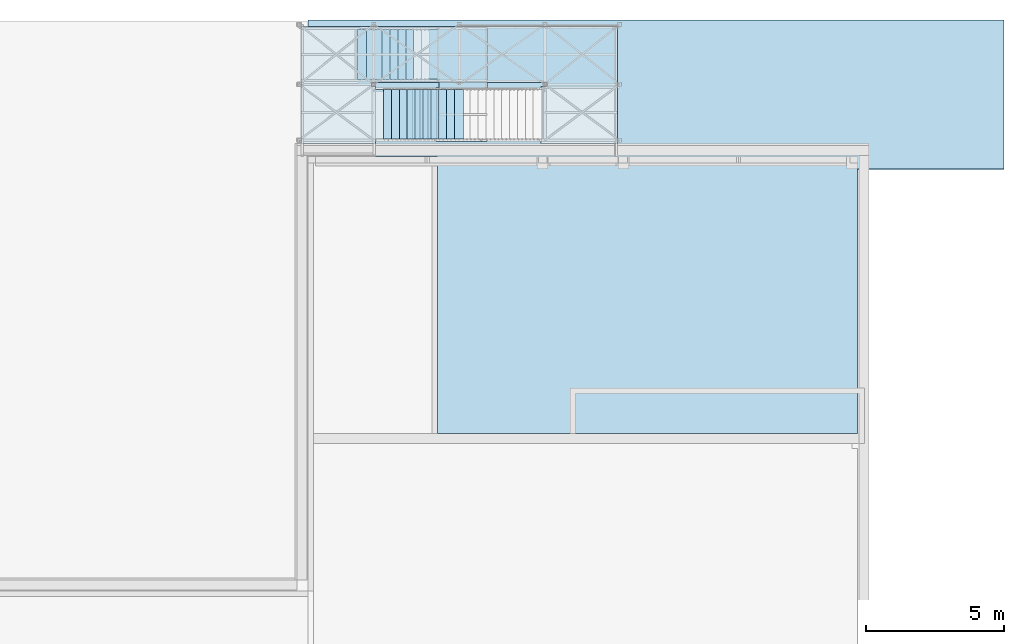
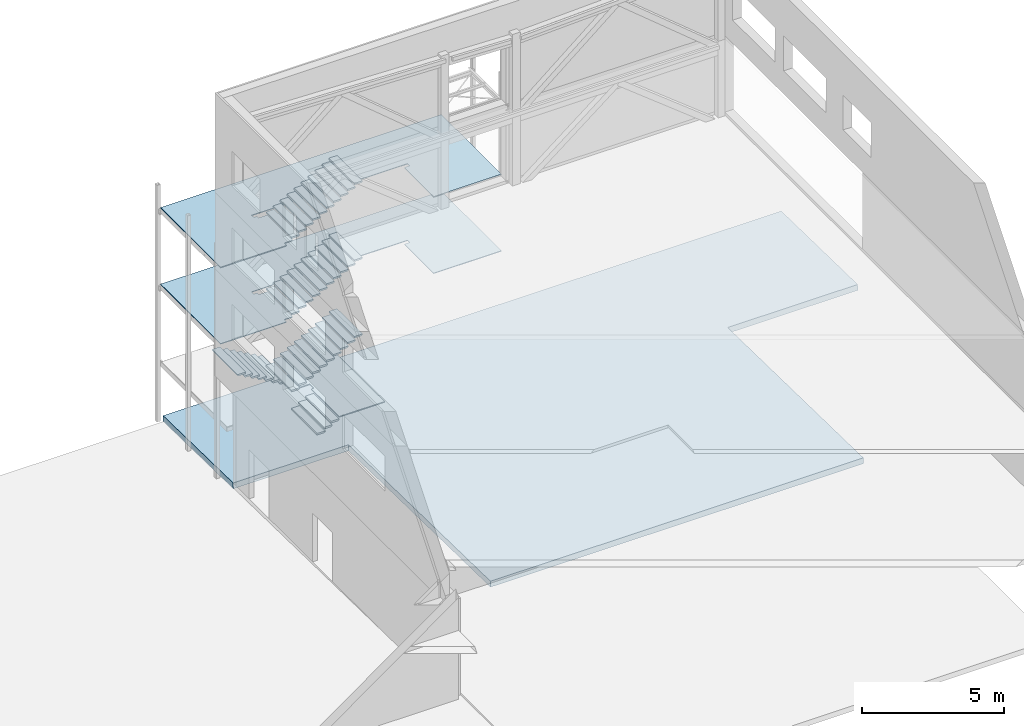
# One storey, part 60 of 78: 43 plates, 1 slab, 44 elements without a shape of their own.
"""IFC2X3 building model written with IfcOpenShell, lengths in millimetres."""

from ifc_helpers import new_model, si_unit, frame, origin_with_axes, place, context, subcontext, project, spatial, polyline, outline, extrude, material, type_object, element, aggregate, save


model = new_model("IFC2X3")

# Units and contexts
model_context = context("Model", 3, precision=1e-05, world=origin_with_axes())
body_context = subcontext(model_context, "Body", "Model", "MODEL_VIEW")
ifc_project = project(units=[si_unit("LENGTHUNIT", "METRE", prefix="MILLI"), si_unit("AREAUNIT", "SQUARE_METRE"), si_unit("VOLUMEUNIT", "CUBIC_METRE"), si_unit("MASSUNIT", "GRAM", prefix="KILO"), si_unit("TIMEUNIT", "SECOND"), si_unit("PLANEANGLEUNIT", "RADIAN"), si_unit("SOLIDANGLEUNIT", "STERADIAN"), si_unit("THERMODYNAMICTEMPERATUREUNIT", "DEGREE_CELSIUS"), si_unit("LUMINOUSINTENSITYUNIT", "LUMEN")], contexts=[model_context])

# Site, building, storey
site_placement = place(None, origin_with_axes())
site = spatial("IfcSite", under=ifc_project, at=site_placement, Name="Site", CompositionType="ELEMENT")
building_placement = place(site_placement, origin_with_axes())
building = spatial("IfcBuilding", under=site, at=building_placement, Name="Undefined", CompositionType="ELEMENT")
storey_placement = place(building_placement, origin_with_axes())
storey = spatial("IfcBuildingStorey", under=building, at=storey_placement, Name="Undefined", CompositionType="ELEMENT", Elevation=0.0)

# Assembly, plate
assembly_1_placement = place(storey_placement, origin_with_axes())
assembly_1 = element("IfcElementAssembly", 1, at=assembly_1_placement, inside=storey, Name="MARCHE", AssemblyPlace="NOTDEFINED", PredefinedType="RIGID_FRAME")
ifc_material_1 = material(Name="STEEL/S235JR")
plate_type_1 = type_object("IfcPlateType", Name="PL1800*70", PredefinedType="NOTDEFINED")
plate_1_placement = place(assembly_1_placement, frame((-2401.42999989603, 29662.9999999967, 148345.540000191), z_axis=(0.0, -1.0, 0.0), x_axis=(-1.0, 0.0, 0.0)))
plate_1 = element("IfcPlate", 2, at=plate_1_placement, type_object=plate_type_1, material=ifc_material_1, Name="MARCHE", ObjectType="PL1800*70", context=body_context, shape_type="SweptSolid", body=[
    extrude(outline(polyline([(0.0, 0.0), (330.0, 0.0), (330.0, 70.0), (40.0, 70.0), (0.0, 40.0), (0.0, 0.0)])), frame((0.0, 0.0, -900.0), z_axis=(0.0, 0.0, 1.0), x_axis=(1.0, 0.0, 0.0)), (0.0, 0.0, 1.0), 1800.0),
])
aggregate(assembly_1, [plate_1])

assembly_2_placement = place(storey_placement, origin_with_axes())
assembly_2 = element("IfcElementAssembly", 3, at=assembly_2_placement, inside=storey, Name="MARCHE", AssemblyPlace="NOTDEFINED", PredefinedType="RIGID_FRAME")
plate_2_placement = place(assembly_2_placement, frame((-5291.43000014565, 31833.0000000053, 149940.540000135), z_axis=(0.0, 1.0, 0.0), x_axis=(1.0, 0.0, 0.0)))
plate_2 = element("IfcPlate", 4, at=plate_2_placement, type_object=plate_type_1, material=ifc_material_1, Name="MARCHE", ObjectType="PL1800*70", context=body_context, shape_type="SweptSolid", body=[
    extrude(outline(polyline([(0.0, 0.0), (330.0, 0.0), (330.0, 70.0), (40.0, 70.0), (0.0, 40.0), (0.0, 0.0)])), frame((0.0, 0.0, -900.0), z_axis=(0.0, 0.0, 1.0), x_axis=(1.0, 0.0, 0.0)), (0.0, 0.0, 1.0), 1800.0),
])
aggregate(assembly_2, [plate_2])

assembly_3_placement = place(storey_placement, origin_with_axes())
assembly_3 = element("IfcElementAssembly", 5, at=assembly_3_placement, inside=storey, Name="MARCHE", AssemblyPlace="NOTDEFINED", PredefinedType="RIGID_FRAME")
plate_3_placement = place(assembly_3_placement, frame((-2686.42999990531, 29662.9999999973, 148186.040000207), z_axis=(0.0, -1.0, 0.0), x_axis=(-1.0, 0.0, 0.0)))
plate_3 = element("IfcPlate", 6, at=plate_3_placement, type_object=plate_type_1, material=ifc_material_1, Name="MARCHE", ObjectType="PL1800*70", context=body_context, shape_type="SweptSolid", body=[
    extrude(outline(polyline([(0.0, 0.0), (330.0, 0.0), (330.0, 70.0), (40.0, 70.0), (0.0, 40.0), (0.0, 0.0)])), frame((0.0, 0.0, -900.0), z_axis=(0.0, 0.0, 1.0), x_axis=(1.0, 0.0, 0.0)), (0.0, 0.0, 1.0), 1800.0),
])
aggregate(assembly_3, [plate_3])

assembly_4_placement = place(storey_placement, origin_with_axes())
assembly_4 = element("IfcElementAssembly", 7, at=assembly_4_placement, inside=storey, Name="MARCHE", AssemblyPlace="NOTDEFINED", PredefinedType="RIGID_FRAME")
plate_4_placement = place(assembly_4_placement, frame((-5006.43000013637, 31833.0000000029, 149781.040000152), z_axis=(0.0, 1.0, 0.0), x_axis=(1.0, 0.0, 0.0)))
plate_4 = element("IfcPlate", 8, at=plate_4_placement, type_object=plate_type_1, material=ifc_material_1, Name="MARCHE", ObjectType="PL1800*70", context=body_context, shape_type="SweptSolid", body=[
    extrude(outline(polyline([(0.0, 0.0), (330.0, 0.0), (330.0, 70.0), (40.0, 70.0), (0.0, 40.0), (0.0, 0.0)])), frame((0.0, 0.0, -900.0), z_axis=(0.0, 0.0, 1.0), x_axis=(1.0, 0.0, 0.0)), (0.0, 0.0, 1.0), 1800.0),
])
aggregate(assembly_4, [plate_4])

assembly_5_placement = place(storey_placement, origin_with_axes())
assembly_5 = element("IfcElementAssembly", 9, at=assembly_5_placement, inside=storey, Name="MARCHE", AssemblyPlace="NOTDEFINED", PredefinedType="RIGID_FRAME")
plate_5_placement = place(assembly_5_placement, frame((-2971.4299999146, 29662.9999999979, 148026.540000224), z_axis=(0.0, -1.0, 0.0), x_axis=(-1.0, 0.0, 0.0)))
plate_5 = element("IfcPlate", 10, at=plate_5_placement, type_object=plate_type_1, material=ifc_material_1, Name="MARCHE", ObjectType="PL1800*70", context=body_context, shape_type="SweptSolid", body=[
    extrude(outline(polyline([(0.0, 0.0), (330.0, 0.0), (330.0, 70.0), (40.0, 70.0), (0.0, 40.0), (0.0, 0.0)])), frame((0.0, 0.0, -900.0), z_axis=(0.0, 0.0, 1.0), x_axis=(1.0, 0.0, 0.0)), (0.0, 0.0, 1.0), 1800.0),
])
aggregate(assembly_5, [plate_5])

assembly_6_placement = place(storey_placement, origin_with_axes())
assembly_6 = element("IfcElementAssembly", 11, at=assembly_6_placement, inside=storey, Name="MARCHE", AssemblyPlace="NOTDEFINED", PredefinedType="RIGID_FRAME")
plate_6_placement = place(assembly_6_placement, frame((-1446.42999994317, 29663.0000000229, 151667.539999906), z_axis=(0.0, -1.0, 0.0), x_axis=(-1.0, 0.0, 0.0)))
plate_6 = element("IfcPlate", 12, at=plate_6_placement, type_object=plate_type_1, material=ifc_material_1, Name="MARCHE", ObjectType="PL1800*70", context=body_context, shape_type="SweptSolid", body=[
    extrude(outline(polyline([(0.0, 0.0), (330.0, 0.0), (330.0, 70.0), (40.0, 70.0), (0.0, 40.0), (0.0, 0.0)])), frame((0.0, 0.0, -900.0), z_axis=(0.0, 0.0, 1.0), x_axis=(1.0, 0.0, 0.0)), (0.0, 0.0, 1.0), 1800.0),
])
aggregate(assembly_6, [plate_6])

assembly_7_placement = place(storey_placement, origin_with_axes())
assembly_7 = element("IfcElementAssembly", 13, at=assembly_7_placement, inside=storey, Name="MARCHE", AssemblyPlace="NOTDEFINED", PredefinedType="RIGID_FRAME")
plate_7_placement = place(assembly_7_placement, frame((-1731.42999994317, 29663.0000000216, 151510.039999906), z_axis=(0.0, -1.0, 0.0), x_axis=(-1.0, 0.0, 0.0)))
plate_7 = element("IfcPlate", 14, at=plate_7_placement, type_object=plate_type_1, material=ifc_material_1, Name="MARCHE", ObjectType="PL1800*70", context=body_context, shape_type="SweptSolid", body=[
    extrude(outline(polyline([(0.0, 0.0), (330.0, 0.0), (330.0, 70.0), (40.0, 70.0), (0.0, 40.0), (0.0, 0.0)])), frame((0.0, 0.0, -900.0), z_axis=(0.0, 0.0, 1.0), x_axis=(1.0, 0.0, 0.0)), (0.0, 0.0, 1.0), 1800.0),
])
aggregate(assembly_7, [plate_7])

assembly_8_placement = place(storey_placement, origin_with_axes())
assembly_8 = element("IfcElementAssembly", 15, at=assembly_8_placement, inside=storey, Name="MARCHE", AssemblyPlace="NOTDEFINED", PredefinedType="RIGID_FRAME")
plate_8_placement = place(assembly_8_placement, frame((-2016.42999994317, 29663.0000000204, 151352.539999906), z_axis=(0.0, -1.0, 0.0), x_axis=(-1.0, 0.0, 0.0)))
plate_8 = element("IfcPlate", 16, at=plate_8_placement, type_object=plate_type_1, material=ifc_material_1, Name="MARCHE", ObjectType="PL1800*70", context=body_context, shape_type="SweptSolid", body=[
    extrude(outline(polyline([(0.0, 0.0), (330.0, 0.0), (330.0, 70.0), (40.0, 70.0), (0.0, 40.0), (0.0, 0.0)])), frame((0.0, 0.0, -900.0), z_axis=(0.0, 0.0, 1.0), x_axis=(1.0, 0.0, 0.0)), (0.0, 0.0, 1.0), 1800.0),
])
aggregate(assembly_8, [plate_8])

assembly_9_placement = place(storey_placement, origin_with_axes())
assembly_9 = element("IfcElementAssembly", 17, at=assembly_9_placement, inside=storey, Name="MARCHE", AssemblyPlace="NOTDEFINED", PredefinedType="RIGID_FRAME")
plate_9_placement = place(assembly_9_placement, frame((-2301.42999994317, 29663.0000000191, 151195.039999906), z_axis=(0.0, -1.0, 0.0), x_axis=(-1.0, 0.0, 0.0)))
plate_9 = element("IfcPlate", 18, at=plate_9_placement, type_object=plate_type_1, material=ifc_material_1, Name="MARCHE", ObjectType="PL1800*70", context=body_context, shape_type="SweptSolid", body=[
    extrude(outline(polyline([(0.0, 0.0), (330.0, 0.0), (330.0, 70.0), (40.0, 70.0), (0.0, 40.0), (0.0, 0.0)])), frame((0.0, 0.0, -900.0), z_axis=(0.0, 0.0, 1.0), x_axis=(1.0, 0.0, 0.0)), (0.0, 0.0, 1.0), 1800.0),
])
aggregate(assembly_9, [plate_9])

assembly_10_placement = place(storey_placement, origin_with_axes())
assembly_10 = element("IfcElementAssembly", 19, at=assembly_10_placement, inside=storey, Name="MARCHE", AssemblyPlace="NOTDEFINED", PredefinedType="RIGID_FRAME")
plate_10_placement = place(assembly_10_placement, frame((-2586.42999994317, 29663.0000000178, 151037.539999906), z_axis=(0.0, -1.0, 0.0), x_axis=(-1.0, 0.0, 0.0)))
plate_10 = element("IfcPlate", 20, at=plate_10_placement, type_object=plate_type_1, material=ifc_material_1, Name="MARCHE", ObjectType="PL1800*70", context=body_context, shape_type="SweptSolid", body=[
    extrude(outline(polyline([(0.0, 0.0), (330.0, 0.0), (330.0, 70.0), (40.0, 70.0), (0.0, 40.0), (0.0, 0.0)])), frame((0.0, 0.0, -900.0), z_axis=(0.0, 0.0, 1.0), x_axis=(1.0, 0.0, 0.0)), (0.0, 0.0, 1.0), 1800.0),
])
aggregate(assembly_10, [plate_10])

assembly_11_placement = place(storey_placement, origin_with_axes())
assembly_11 = element("IfcElementAssembly", 21, at=assembly_11_placement, inside=storey, Name="MARCHE", AssemblyPlace="NOTDEFINED", PredefinedType="RIGID_FRAME")
plate_11_placement = place(assembly_11_placement, frame((-2871.42999994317, 29663.0000000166, 150880.039999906), z_axis=(0.0, -1.0, 0.0), x_axis=(-1.0, 0.0, 0.0)))
plate_11 = element("IfcPlate", 22, at=plate_11_placement, type_object=plate_type_1, material=ifc_material_1, Name="MARCHE", ObjectType="PL1800*70", context=body_context, shape_type="SweptSolid", body=[
    extrude(outline(polyline([(0.0, 0.0), (330.0, 0.0), (330.0, 70.0), (40.0, 70.0), (0.0, 40.0), (0.0, 0.0)])), frame((0.0, 0.0, -900.0), z_axis=(0.0, 0.0, 1.0), x_axis=(1.0, 0.0, 0.0)), (0.0, 0.0, 1.0), 1800.0),
])
aggregate(assembly_11, [plate_11])

assembly_12_placement = place(storey_placement, origin_with_axes())
assembly_12 = element("IfcElementAssembly", 23, at=assembly_12_placement, inside=storey, Name="MARCHE", AssemblyPlace="NOTDEFINED", PredefinedType="RIGID_FRAME")
plate_12_placement = place(assembly_12_placement, frame((-3156.42999994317, 29663.0000000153, 150722.539999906), z_axis=(0.0, -1.0, 0.0), x_axis=(-1.0, 0.0, 0.0)))
plate_12 = element("IfcPlate", 24, at=plate_12_placement, type_object=plate_type_1, material=ifc_material_1, Name="MARCHE", ObjectType="PL1800*70", context=body_context, shape_type="SweptSolid", body=[
    extrude(outline(polyline([(0.0, 0.0), (330.0, 0.0), (330.0, 70.0), (40.0, 70.0), (0.0, 40.0), (0.0, 0.0)])), frame((0.0, 0.0, -900.0), z_axis=(0.0, 0.0, 1.0), x_axis=(1.0, 0.0, 0.0)), (0.0, 0.0, 1.0), 1800.0),
])
aggregate(assembly_12, [plate_12])

assembly_13_placement = place(storey_placement, origin_with_axes())
assembly_13 = element("IfcElementAssembly", 25, at=assembly_13_placement, inside=storey, Name="MARCHE", AssemblyPlace="NOTDEFINED", PredefinedType="RIGID_FRAME")
plate_13_placement = place(assembly_13_placement, frame((-3441.42999994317, 29663.0000000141, 150565.039999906), z_axis=(0.0, -1.0, 0.0), x_axis=(-1.0, 0.0, 0.0)))
plate_13 = element("IfcPlate", 26, at=plate_13_placement, type_object=plate_type_1, material=ifc_material_1, Name="MARCHE", ObjectType="PL1800*70", context=body_context, shape_type="SweptSolid", body=[
    extrude(outline(polyline([(0.0, 0.0), (330.0, 0.0), (330.0, 70.0), (40.0, 70.0), (0.0, 40.0), (0.0, 0.0)])), frame((0.0, 0.0, -900.0), z_axis=(0.0, 0.0, 1.0), x_axis=(1.0, 0.0, 0.0)), (0.0, 0.0, 1.0), 1800.0),
])
aggregate(assembly_13, [plate_13])

assembly_14_placement = place(storey_placement, origin_with_axes())
assembly_14 = element("IfcElementAssembly", 27, at=assembly_14_placement, inside=storey, Name="MARCHE", AssemblyPlace="NOTDEFINED", PredefinedType="RIGID_FRAME")
plate_14_placement = place(assembly_14_placement, frame((-3726.42999994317, 29663.0000000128, 150407.539999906), z_axis=(0.0, -1.0, 0.0), x_axis=(-1.0, 0.0, 0.0)))
plate_14 = element("IfcPlate", 28, at=plate_14_placement, type_object=plate_type_1, material=ifc_material_1, Name="MARCHE", ObjectType="PL1800*70", context=body_context, shape_type="SweptSolid", body=[
    extrude(outline(polyline([(0.0, 0.0), (330.0, 0.0), (330.0, 70.0), (40.0, 70.0), (0.0, 40.0), (0.0, 0.0)])), frame((0.0, 0.0, -900.0), z_axis=(0.0, 0.0, 1.0), x_axis=(1.0, 0.0, 0.0)), (0.0, 0.0, 1.0), 1800.0),
])
aggregate(assembly_14, [plate_14])

assembly_15_placement = place(storey_placement, origin_with_axes())
assembly_15 = element("IfcElementAssembly", 29, at=assembly_15_placement, inside=storey, Name="MARCHE", AssemblyPlace="NOTDEFINED", PredefinedType="RIGID_FRAME")
plate_15_placement = place(assembly_15_placement, frame((-4011.42999994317, 29663.0000000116, 150250.039999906), z_axis=(0.0, -1.0, 0.0), x_axis=(-1.0, 0.0, 0.0)))
plate_15 = element("IfcPlate", 30, at=plate_15_placement, type_object=plate_type_1, material=ifc_material_1, Name="MARCHE", ObjectType="PL1800*70", context=body_context, shape_type="SweptSolid", body=[
    extrude(outline(polyline([(0.0, 0.0), (330.0, 0.0), (330.0, 70.0), (40.0, 70.0), (0.0, 40.0), (0.0, 0.0)])), frame((0.0, 0.0, -900.0), z_axis=(0.0, 0.0, 1.0), x_axis=(1.0, 0.0, 0.0)), (0.0, 0.0, 1.0), 1800.0),
])
aggregate(assembly_15, [plate_15])

assembly_16_placement = place(storey_placement, origin_with_axes())
assembly_16 = element("IfcElementAssembly", 31, at=assembly_16_placement, inside=storey, Name="MARCHE", AssemblyPlace="NOTDEFINED", PredefinedType="RIGID_FRAME")
plate_16_placement = place(assembly_16_placement, frame((-3581.43000008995, 31832.9999999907, 148983.540000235), z_axis=(0.0, 1.0, 0.0), x_axis=(1.0, 0.0, 0.0)))
plate_16 = element("IfcPlate", 32, at=plate_16_placement, type_object=plate_type_1, material=ifc_material_1, Name="MARCHE", ObjectType="PL1800*70", context=body_context, shape_type="SweptSolid", body=[
    extrude(outline(polyline([(0.0, 0.0), (330.0, 0.0), (330.0, 70.0), (40.0, 70.0), (0.0, 40.0), (0.0, 0.0)])), frame((0.0, 0.0, -900.0), z_axis=(0.0, 0.0, 1.0), x_axis=(1.0, 0.0, 0.0)), (0.0, 0.0, 1.0), 1800.0),
])
aggregate(assembly_16, [plate_16])

assembly_17_placement = place(storey_placement, origin_with_axes())
assembly_17 = element("IfcElementAssembly", 33, at=assembly_17_placement, inside=storey, Name="MARCHE", AssemblyPlace="NOTDEFINED", PredefinedType="RIGID_FRAME")
plate_17_placement = place(assembly_17_placement, frame((-3866.43000009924, 31832.9999999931, 149143.040000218), z_axis=(0.0, 1.0, 0.0), x_axis=(1.0, 0.0, 0.0)))
plate_17 = element("IfcPlate", 34, at=plate_17_placement, type_object=plate_type_1, material=ifc_material_1, Name="MARCHE", ObjectType="PL1800*70", context=body_context, shape_type="SweptSolid", body=[
    extrude(outline(polyline([(0.0, 0.0), (330.0, 0.0), (330.0, 70.0), (40.0, 70.0), (0.0, 40.0), (0.0, 0.0)])), frame((0.0, 0.0, -900.0), z_axis=(0.0, 0.0, 1.0), x_axis=(1.0, 0.0, 0.0)), (0.0, 0.0, 1.0), 1800.0),
])
aggregate(assembly_17, [plate_17])

assembly_18_placement = place(storey_placement, origin_with_axes())
assembly_18 = element("IfcElementAssembly", 35, at=assembly_18_placement, inside=storey, Name="MARCHE", AssemblyPlace="NOTDEFINED", PredefinedType="RIGID_FRAME")
plate_18_placement = place(assembly_18_placement, frame((-4151.43000010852, 31832.9999999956, 149302.540000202), z_axis=(0.0, 1.0, 0.0), x_axis=(1.0, 0.0, 0.0)))
plate_18 = element("IfcPlate", 36, at=plate_18_placement, type_object=plate_type_1, material=ifc_material_1, Name="MARCHE", ObjectType="PL1800*70", context=body_context, shape_type="SweptSolid", body=[
    extrude(outline(polyline([(0.0, 0.0), (330.0, 0.0), (330.0, 70.0), (40.0, 70.0), (0.0, 40.0), (0.0, 0.0)])), frame((0.0, 0.0, -900.0), z_axis=(0.0, 0.0, 1.0), x_axis=(1.0, 0.0, 0.0)), (0.0, 0.0, 1.0), 1800.0),
])
aggregate(assembly_18, [plate_18])

assembly_19_placement = place(storey_placement, origin_with_axes())
assembly_19 = element("IfcElementAssembly", 37, at=assembly_19_placement, inside=storey, Name="MARCHE", AssemblyPlace="NOTDEFINED", PredefinedType="RIGID_FRAME")
plate_19_placement = place(assembly_19_placement, frame((-4436.4300001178, 31832.999999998, 149462.040000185), z_axis=(0.0, 1.0, 0.0), x_axis=(1.0, 0.0, 0.0)))
plate_19 = element("IfcPlate", 38, at=plate_19_placement, type_object=plate_type_1, material=ifc_material_1, Name="MARCHE", ObjectType="PL1800*70", context=body_context, shape_type="SweptSolid", body=[
    extrude(outline(polyline([(0.0, 0.0), (330.0, 0.0), (330.0, 70.0), (40.0, 70.0), (0.0, 40.0), (0.0, 0.0)])), frame((0.0, 0.0, -900.0), z_axis=(0.0, 0.0, 1.0), x_axis=(1.0, 0.0, 0.0)), (0.0, 0.0, 1.0), 1800.0),
])
aggregate(assembly_19, [plate_19])

assembly_20_placement = place(storey_placement, origin_with_axes())
assembly_20 = element("IfcElementAssembly", 39, at=assembly_20_placement, inside=storey, Name="MARCHE", AssemblyPlace="NOTDEFINED", PredefinedType="RIGID_FRAME")
plate_20_placement = place(assembly_20_placement, frame((-4721.43000012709, 31833.0000000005, 149621.540000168), z_axis=(0.0, 1.0, 0.0), x_axis=(1.0, 0.0, 0.0)))
plate_20 = element("IfcPlate", 40, at=plate_20_placement, type_object=plate_type_1, material=ifc_material_1, Name="MARCHE", ObjectType="PL1800*70", context=body_context, shape_type="SweptSolid", body=[
    extrude(outline(polyline([(0.0, 0.0), (330.0, 0.0), (330.0, 70.0), (40.0, 70.0), (0.0, 40.0), (0.0, 0.0)])), frame((0.0, 0.0, -900.0), z_axis=(0.0, 0.0, 1.0), x_axis=(1.0, 0.0, 0.0)), (0.0, 0.0, 1.0), 1800.0),
])
aggregate(assembly_20, [plate_20])

assembly_21_placement = place(storey_placement, origin_with_axes())
assembly_21 = element("IfcElementAssembly", 41, at=assembly_21_placement, inside=storey, Name="MARCHE", AssemblyPlace="NOTDEFINED", PredefinedType="RIGID_FRAME")
plate_21_placement = place(assembly_21_placement, frame((-1446.42999994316, 29663.0000000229, 154967.539999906), z_axis=(0.0, -1.0, 0.0), x_axis=(-1.0, 0.0, 0.0)))
plate_21 = element("IfcPlate", 42, at=plate_21_placement, type_object=plate_type_1, material=ifc_material_1, Name="MARCHE", ObjectType="PL1800*70", context=body_context, shape_type="SweptSolid", body=[
    extrude(outline(polyline([(0.0, 0.0), (330.0, 0.0), (330.0, 70.0), (40.0, 70.0), (0.0, 40.0), (0.0, 0.0)])), frame((0.0, 0.0, -900.0), z_axis=(0.0, 0.0, 1.0), x_axis=(1.0, 0.0, 0.0)), (0.0, 0.0, 1.0), 1800.0),
])
aggregate(assembly_21, [plate_21])

assembly_22_placement = place(storey_placement, origin_with_axes())
assembly_22 = element("IfcElementAssembly", 43, at=assembly_22_placement, inside=storey, Name="MARCHE", AssemblyPlace="NOTDEFINED", PredefinedType="RIGID_FRAME")
plate_22_placement = place(assembly_22_placement, frame((-1731.42999994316, 29663.0000000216, 154810.039999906), z_axis=(0.0, -1.0, 0.0), x_axis=(-1.0, 0.0, 0.0)))
plate_22 = element("IfcPlate", 44, at=plate_22_placement, type_object=plate_type_1, material=ifc_material_1, Name="MARCHE", ObjectType="PL1800*70", context=body_context, shape_type="SweptSolid", body=[
    extrude(outline(polyline([(0.0, 0.0), (330.0, 0.0), (330.0, 70.0), (40.0, 70.0), (0.0, 40.0), (0.0, 0.0)])), frame((0.0, 0.0, -900.0), z_axis=(0.0, 0.0, 1.0), x_axis=(1.0, 0.0, 0.0)), (0.0, 0.0, 1.0), 1800.0),
])
aggregate(assembly_22, [plate_22])

assembly_23_placement = place(storey_placement, origin_with_axes())
assembly_23 = element("IfcElementAssembly", 45, at=assembly_23_placement, inside=storey, Name="MARCHE", AssemblyPlace="NOTDEFINED", PredefinedType="RIGID_FRAME")
plate_23_placement = place(assembly_23_placement, frame((-2016.42999994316, 29663.0000000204, 154652.539999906), z_axis=(0.0, -1.0, 0.0), x_axis=(-1.0, 0.0, 0.0)))
plate_23 = element("IfcPlate", 46, at=plate_23_placement, type_object=plate_type_1, material=ifc_material_1, Name="MARCHE", ObjectType="PL1800*70", context=body_context, shape_type="SweptSolid", body=[
    extrude(outline(polyline([(0.0, 0.0), (330.0, 0.0), (330.0, 70.0), (40.0, 70.0), (0.0, 40.0), (0.0, 0.0)])), frame((0.0, 0.0, -900.0), z_axis=(0.0, 0.0, 1.0), x_axis=(1.0, 0.0, 0.0)), (0.0, 0.0, 1.0), 1800.0),
])
aggregate(assembly_23, [plate_23])

assembly_24_placement = place(storey_placement, origin_with_axes())
assembly_24 = element("IfcElementAssembly", 47, at=assembly_24_placement, inside=storey, Name="MARCHE", AssemblyPlace="NOTDEFINED", PredefinedType="RIGID_FRAME")
plate_24_placement = place(assembly_24_placement, frame((-2301.42999994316, 29663.0000000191, 154495.039999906), z_axis=(0.0, -1.0, 0.0), x_axis=(-1.0, 0.0, 0.0)))
plate_24 = element("IfcPlate", 48, at=plate_24_placement, type_object=plate_type_1, material=ifc_material_1, Name="MARCHE", ObjectType="PL1800*70", context=body_context, shape_type="SweptSolid", body=[
    extrude(outline(polyline([(0.0, 0.0), (330.0, 0.0), (330.0, 70.0), (40.0, 70.0), (0.0, 40.0), (0.0, 0.0)])), frame((0.0, 0.0, -900.0), z_axis=(0.0, 0.0, 1.0), x_axis=(1.0, 0.0, 0.0)), (0.0, 0.0, 1.0), 1800.0),
])
aggregate(assembly_24, [plate_24])

assembly_25_placement = place(storey_placement, origin_with_axes())
assembly_25 = element("IfcElementAssembly", 49, at=assembly_25_placement, inside=storey, Name="MARCHE", AssemblyPlace="NOTDEFINED", PredefinedType="RIGID_FRAME")
plate_25_placement = place(assembly_25_placement, frame((-2586.42999994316, 29663.0000000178, 154337.539999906), z_axis=(0.0, -1.0, 0.0), x_axis=(-1.0, 0.0, 0.0)))
plate_25 = element("IfcPlate", 50, at=plate_25_placement, type_object=plate_type_1, material=ifc_material_1, Name="MARCHE", ObjectType="PL1800*70", context=body_context, shape_type="SweptSolid", body=[
    extrude(outline(polyline([(0.0, 0.0), (330.0, 0.0), (330.0, 70.0), (40.0, 70.0), (0.0, 40.0), (0.0, 0.0)])), frame((0.0, 0.0, -900.0), z_axis=(0.0, 0.0, 1.0), x_axis=(1.0, 0.0, 0.0)), (0.0, 0.0, 1.0), 1800.0),
])
aggregate(assembly_25, [plate_25])

assembly_26_placement = place(storey_placement, origin_with_axes())
assembly_26 = element("IfcElementAssembly", 51, at=assembly_26_placement, inside=storey, Name="MARCHE", AssemblyPlace="NOTDEFINED", PredefinedType="RIGID_FRAME")
plate_26_placement = place(assembly_26_placement, frame((-2871.42999994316, 29663.0000000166, 154180.039999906), z_axis=(0.0, -1.0, 0.0), x_axis=(-1.0, 0.0, 0.0)))
plate_26 = element("IfcPlate", 52, at=plate_26_placement, type_object=plate_type_1, material=ifc_material_1, Name="MARCHE", ObjectType="PL1800*70", context=body_context, shape_type="SweptSolid", body=[
    extrude(outline(polyline([(0.0, 0.0), (330.0, 0.0), (330.0, 70.0), (40.0, 70.0), (0.0, 40.0), (0.0, 0.0)])), frame((0.0, 0.0, -900.0), z_axis=(0.0, 0.0, 1.0), x_axis=(1.0, 0.0, 0.0)), (0.0, 0.0, 1.0), 1800.0),
])
aggregate(assembly_26, [plate_26])

assembly_27_placement = place(storey_placement, origin_with_axes())
assembly_27 = element("IfcElementAssembly", 53, at=assembly_27_placement, inside=storey, Name="MARCHE", AssemblyPlace="NOTDEFINED", PredefinedType="RIGID_FRAME")
plate_27_placement = place(assembly_27_placement, frame((-3156.42999994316, 29663.0000000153, 154022.539999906), z_axis=(0.0, -1.0, 0.0), x_axis=(-1.0, 0.0, 0.0)))
plate_27 = element("IfcPlate", 54, at=plate_27_placement, type_object=plate_type_1, material=ifc_material_1, Name="MARCHE", ObjectType="PL1800*70", context=body_context, shape_type="SweptSolid", body=[
    extrude(outline(polyline([(0.0, 0.0), (330.0, 0.0), (330.0, 70.0), (40.0, 70.0), (0.0, 40.0), (0.0, 0.0)])), frame((0.0, 0.0, -900.0), z_axis=(0.0, 0.0, 1.0), x_axis=(1.0, 0.0, 0.0)), (0.0, 0.0, 1.0), 1800.0),
])
aggregate(assembly_27, [plate_27])

assembly_28_placement = place(storey_placement, origin_with_axes())
assembly_28 = element("IfcElementAssembly", 55, at=assembly_28_placement, inside=storey, Name="MARCHE", AssemblyPlace="NOTDEFINED", PredefinedType="RIGID_FRAME")
plate_28_placement = place(assembly_28_placement, frame((-3441.42999994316, 29663.0000000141, 153865.039999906), z_axis=(0.0, -1.0, 0.0), x_axis=(-1.0, 0.0, 0.0)))
plate_28 = element("IfcPlate", 56, at=plate_28_placement, type_object=plate_type_1, material=ifc_material_1, Name="MARCHE", ObjectType="PL1800*70", context=body_context, shape_type="SweptSolid", body=[
    extrude(outline(polyline([(0.0, 0.0), (330.0, 0.0), (330.0, 70.0), (40.0, 70.0), (0.0, 40.0), (0.0, 0.0)])), frame((0.0, 0.0, -900.0), z_axis=(0.0, 0.0, 1.0), x_axis=(1.0, 0.0, 0.0)), (0.0, 0.0, 1.0), 1800.0),
])
aggregate(assembly_28, [plate_28])

assembly_29_placement = place(storey_placement, origin_with_axes())
assembly_29 = element("IfcElementAssembly", 57, at=assembly_29_placement, inside=storey, Name="MARCHE", AssemblyPlace="NOTDEFINED", PredefinedType="RIGID_FRAME")
plate_29_placement = place(assembly_29_placement, frame((-3726.42999994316, 29663.0000000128, 153707.539999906), z_axis=(0.0, -1.0, 0.0), x_axis=(-1.0, 0.0, 0.0)))
plate_29 = element("IfcPlate", 58, at=plate_29_placement, type_object=plate_type_1, material=ifc_material_1, Name="MARCHE", ObjectType="PL1800*70", context=body_context, shape_type="SweptSolid", body=[
    extrude(outline(polyline([(0.0, 0.0), (330.0, 0.0), (330.0, 70.0), (40.0, 70.0), (0.0, 40.0), (0.0, 0.0)])), frame((0.0, 0.0, -900.0), z_axis=(0.0, 0.0, 1.0), x_axis=(1.0, 0.0, 0.0)), (0.0, 0.0, 1.0), 1800.0),
])
aggregate(assembly_29, [plate_29])

assembly_30_placement = place(storey_placement, origin_with_axes())
assembly_30 = element("IfcElementAssembly", 59, at=assembly_30_placement, inside=storey, Name="MARCHE", AssemblyPlace="NOTDEFINED", PredefinedType="RIGID_FRAME")
plate_30_placement = place(assembly_30_placement, frame((-4011.42999994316, 29663.0000000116, 153550.039999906), z_axis=(0.0, -1.0, 0.0), x_axis=(-1.0, 0.0, 0.0)))
plate_30 = element("IfcPlate", 60, at=plate_30_placement, type_object=plate_type_1, material=ifc_material_1, Name="MARCHE", ObjectType="PL1800*70", context=body_context, shape_type="SweptSolid", body=[
    extrude(outline(polyline([(0.0, 0.0), (330.0, 0.0), (330.0, 70.0), (40.0, 70.0), (0.0, 40.0), (0.0, 0.0)])), frame((0.0, 0.0, -900.0), z_axis=(0.0, 0.0, 1.0), x_axis=(1.0, 0.0, 0.0)), (0.0, 0.0, 1.0), 1800.0),
])
aggregate(assembly_30, [plate_30])

assembly_31_placement = place(storey_placement, origin_with_axes())
assembly_31 = element("IfcElementAssembly", 61, at=assembly_31_placement, inside=storey, Name="MARCHE", AssemblyPlace="NOTDEFINED", PredefinedType="RIGID_FRAME")
plate_31_placement = place(assembly_31_placement, frame((-1446.42999994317, 29663.0000000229, 158267.539999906), z_axis=(0.0, -1.0, 0.0), x_axis=(-1.0, 0.0, 0.0)))
plate_31 = element("IfcPlate", 62, at=plate_31_placement, type_object=plate_type_1, material=ifc_material_1, Name="MARCHE", ObjectType="PL1800*70", context=body_context, shape_type="SweptSolid", body=[
    extrude(outline(polyline([(0.0, 0.0), (330.0, 0.0), (330.0, 70.0), (40.0, 70.0), (0.0, 40.0), (0.0, 0.0)])), frame((0.0, 0.0, -900.0), z_axis=(0.0, 0.0, 1.0), x_axis=(1.0, 0.0, 0.0)), (0.0, 0.0, 1.0), 1800.0),
])
aggregate(assembly_31, [plate_31])

assembly_32_placement = place(storey_placement, origin_with_axes())
assembly_32 = element("IfcElementAssembly", 63, at=assembly_32_placement, inside=storey, Name="MARCHE", AssemblyPlace="NOTDEFINED", PredefinedType="RIGID_FRAME")
plate_32_placement = place(assembly_32_placement, frame((-1731.42999994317, 29663.0000000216, 158110.039999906), z_axis=(0.0, -1.0, 0.0), x_axis=(-1.0, 0.0, 0.0)))
plate_32 = element("IfcPlate", 64, at=plate_32_placement, type_object=plate_type_1, material=ifc_material_1, Name="MARCHE", ObjectType="PL1800*70", context=body_context, shape_type="SweptSolid", body=[
    extrude(outline(polyline([(0.0, 0.0), (330.0, 0.0), (330.0, 70.0), (40.0, 70.0), (0.0, 40.0), (0.0, 0.0)])), frame((0.0, 0.0, -900.0), z_axis=(0.0, 0.0, 1.0), x_axis=(1.0, 0.0, 0.0)), (0.0, 0.0, 1.0), 1800.0),
])
aggregate(assembly_32, [plate_32])

assembly_33_placement = place(storey_placement, origin_with_axes())
assembly_33 = element("IfcElementAssembly", 65, at=assembly_33_placement, inside=storey, Name="MARCHE", AssemblyPlace="NOTDEFINED", PredefinedType="RIGID_FRAME")
plate_33_placement = place(assembly_33_placement, frame((-2016.42999994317, 29663.0000000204, 157952.539999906), z_axis=(0.0, -1.0, 0.0), x_axis=(-1.0, 0.0, 0.0)))
plate_33 = element("IfcPlate", 66, at=plate_33_placement, type_object=plate_type_1, material=ifc_material_1, Name="MARCHE", ObjectType="PL1800*70", context=body_context, shape_type="SweptSolid", body=[
    extrude(outline(polyline([(0.0, 0.0), (330.0, 0.0), (330.0, 70.0), (40.0, 70.0), (0.0, 40.0), (0.0, 0.0)])), frame((0.0, 0.0, -900.0), z_axis=(0.0, 0.0, 1.0), x_axis=(1.0, 0.0, 0.0)), (0.0, 0.0, 1.0), 1800.0),
])
aggregate(assembly_33, [plate_33])

assembly_34_placement = place(storey_placement, origin_with_axes())
assembly_34 = element("IfcElementAssembly", 67, at=assembly_34_placement, inside=storey, Name="MARCHE", AssemblyPlace="NOTDEFINED", PredefinedType="RIGID_FRAME")
plate_34_placement = place(assembly_34_placement, frame((-2301.42999994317, 29663.0000000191, 157795.039999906), z_axis=(0.0, -1.0, 0.0), x_axis=(-1.0, 0.0, 0.0)))
plate_34 = element("IfcPlate", 68, at=plate_34_placement, type_object=plate_type_1, material=ifc_material_1, Name="MARCHE", ObjectType="PL1800*70", context=body_context, shape_type="SweptSolid", body=[
    extrude(outline(polyline([(0.0, 0.0), (330.0, 0.0), (330.0, 70.0), (40.0, 70.0), (0.0, 40.0), (0.0, 0.0)])), frame((0.0, 0.0, -900.0), z_axis=(0.0, 0.0, 1.0), x_axis=(1.0, 0.0, 0.0)), (0.0, 0.0, 1.0), 1800.0),
])
aggregate(assembly_34, [plate_34])

assembly_35_placement = place(storey_placement, origin_with_axes())
assembly_35 = element("IfcElementAssembly", 69, at=assembly_35_placement, inside=storey, Name="MARCHE", AssemblyPlace="NOTDEFINED", PredefinedType="RIGID_FRAME")
plate_35_placement = place(assembly_35_placement, frame((-2586.42999994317, 29663.0000000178, 157637.539999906), z_axis=(0.0, -1.0, 0.0), x_axis=(-1.0, 0.0, 0.0)))
plate_35 = element("IfcPlate", 70, at=plate_35_placement, type_object=plate_type_1, material=ifc_material_1, Name="MARCHE", ObjectType="PL1800*70", context=body_context, shape_type="SweptSolid", body=[
    extrude(outline(polyline([(0.0, 0.0), (330.0, 0.0), (330.0, 70.0), (40.0, 70.0), (0.0, 40.0), (0.0, 0.0)])), frame((0.0, 0.0, -900.0), z_axis=(0.0, 0.0, 1.0), x_axis=(1.0, 0.0, 0.0)), (0.0, 0.0, 1.0), 1800.0),
])
aggregate(assembly_35, [plate_35])

assembly_36_placement = place(storey_placement, origin_with_axes())
assembly_36 = element("IfcElementAssembly", 71, at=assembly_36_placement, inside=storey, Name="MARCHE", AssemblyPlace="NOTDEFINED", PredefinedType="RIGID_FRAME")
plate_36_placement = place(assembly_36_placement, frame((-2871.42999994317, 29663.0000000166, 157480.039999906), z_axis=(0.0, -1.0, 0.0), x_axis=(-1.0, 0.0, 0.0)))
plate_36 = element("IfcPlate", 72, at=plate_36_placement, type_object=plate_type_1, material=ifc_material_1, Name="MARCHE", ObjectType="PL1800*70", context=body_context, shape_type="SweptSolid", body=[
    extrude(outline(polyline([(0.0, 0.0), (330.0, 0.0), (330.0, 70.0), (40.0, 70.0), (0.0, 40.0), (0.0, 0.0)])), frame((0.0, 0.0, -900.0), z_axis=(0.0, 0.0, 1.0), x_axis=(1.0, 0.0, 0.0)), (0.0, 0.0, 1.0), 1800.0),
])
aggregate(assembly_36, [plate_36])

assembly_37_placement = place(storey_placement, origin_with_axes())
assembly_37 = element("IfcElementAssembly", 73, at=assembly_37_placement, inside=storey, Name="MARCHE", AssemblyPlace="NOTDEFINED", PredefinedType="RIGID_FRAME")
plate_37_placement = place(assembly_37_placement, frame((-3156.42999994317, 29663.0000000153, 157322.539999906), z_axis=(0.0, -1.0, 0.0), x_axis=(-1.0, 0.0, 0.0)))
plate_37 = element("IfcPlate", 74, at=plate_37_placement, type_object=plate_type_1, material=ifc_material_1, Name="MARCHE", ObjectType="PL1800*70", context=body_context, shape_type="SweptSolid", body=[
    extrude(outline(polyline([(0.0, 0.0), (330.0, 0.0), (330.0, 70.0), (40.0, 70.0), (0.0, 40.0), (0.0, 0.0)])), frame((0.0, 0.0, -900.0), z_axis=(0.0, 0.0, 1.0), x_axis=(1.0, 0.0, 0.0)), (0.0, 0.0, 1.0), 1800.0),
])
aggregate(assembly_37, [plate_37])

assembly_38_placement = place(storey_placement, origin_with_axes())
assembly_38 = element("IfcElementAssembly", 75, at=assembly_38_placement, inside=storey, Name="MARCHE", AssemblyPlace="NOTDEFINED", PredefinedType="RIGID_FRAME")
plate_38_placement = place(assembly_38_placement, frame((-3441.42999994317, 29663.0000000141, 157165.039999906), z_axis=(0.0, -1.0, 0.0), x_axis=(-1.0, 0.0, 0.0)))
plate_38 = element("IfcPlate", 76, at=plate_38_placement, type_object=plate_type_1, material=ifc_material_1, Name="MARCHE", ObjectType="PL1800*70", context=body_context, shape_type="SweptSolid", body=[
    extrude(outline(polyline([(0.0, 0.0), (330.0, 0.0), (330.0, 70.0), (40.0, 70.0), (0.0, 40.0), (0.0, 0.0)])), frame((0.0, 0.0, -900.0), z_axis=(0.0, 0.0, 1.0), x_axis=(1.0, 0.0, 0.0)), (0.0, 0.0, 1.0), 1800.0),
])
aggregate(assembly_38, [plate_38])

assembly_39_placement = place(storey_placement, origin_with_axes())
assembly_39 = element("IfcElementAssembly", 77, at=assembly_39_placement, inside=storey, Name="MARCHE", AssemblyPlace="NOTDEFINED", PredefinedType="RIGID_FRAME")
plate_39_placement = place(assembly_39_placement, frame((-3726.42999994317, 29663.0000000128, 157007.539999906), z_axis=(0.0, -1.0, 0.0), x_axis=(-1.0, 0.0, 0.0)))
plate_39 = element("IfcPlate", 78, at=plate_39_placement, type_object=plate_type_1, material=ifc_material_1, Name="MARCHE", ObjectType="PL1800*70", context=body_context, shape_type="SweptSolid", body=[
    extrude(outline(polyline([(0.0, 0.0), (330.0, 0.0), (330.0, 70.0), (40.0, 70.0), (0.0, 40.0), (0.0, 0.0)])), frame((0.0, 0.0, -900.0), z_axis=(0.0, 0.0, 1.0), x_axis=(1.0, 0.0, 0.0)), (0.0, 0.0, 1.0), 1800.0),
])
aggregate(assembly_39, [plate_39])

assembly_40_placement = place(storey_placement, origin_with_axes())
assembly_40 = element("IfcElementAssembly", 79, at=assembly_40_placement, inside=storey, Name="MARCHE", AssemblyPlace="NOTDEFINED", PredefinedType="RIGID_FRAME")
plate_40_placement = place(assembly_40_placement, frame((-4011.42999994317, 29663.0000000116, 156850.039999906), z_axis=(0.0, -1.0, 0.0), x_axis=(-1.0, 0.0, 0.0)))
plate_40 = element("IfcPlate", 80, at=plate_40_placement, type_object=plate_type_1, material=ifc_material_1, Name="MARCHE", ObjectType="PL1800*70", context=body_context, shape_type="SweptSolid", body=[
    extrude(outline(polyline([(0.0, 0.0), (330.0, 0.0), (330.0, 70.0), (40.0, 70.0), (0.0, 40.0), (0.0, 0.0)])), frame((0.0, 0.0, -900.0), z_axis=(0.0, 0.0, 1.0), x_axis=(1.0, 0.0, 0.0)), (0.0, 0.0, 1.0), 1800.0),
])
aggregate(assembly_40, [plate_40])

assembly_41_placement = place(storey_placement, origin_with_axes())
assembly_41 = element("IfcElementAssembly", 81, at=assembly_41_placement, inside=storey, AssemblyPlace="NOTDEFINED", PredefinedType="RIGID_FRAME")
plate_type_2 = type_object("IfcPlateType", Name="PL30*2135", PredefinedType="NOTDEFINED")
plate_41_placement = place(assembly_41_placement, frame((-596.43000003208, 28682.9999999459, 148490.039999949), z_axis=(0.0, 0.0, 1.0), x_axis=(0.0, 1.0, 0.0)))
plate_41 = element("IfcPlate", 82, at=plate_41_placement, type_object=plate_type_2, material=ifc_material_1, Name="CAILLEBOTIS", ObjectType="PL30*2135", context=body_context, shape_type="SweptSolid", body=[
    extrude(outline(polyline([(0.0, 0.0), (4130.00000006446, 1.51430867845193e-10), (4130.00000003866, 1747.50000005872), (4045.00000002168, 1747.49999998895), (4045.00000002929, 2134.99999998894), (2255.00000002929, 2134.99999997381), (2255.00000003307, 1747.49999997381), (1960.00000003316, 1747.49999997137), (1960.0000000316, 1849.99999907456), (-2.73430487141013e-08, 1849.99999905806), (0.0, 0.0)])), frame((0.0, 0.0, -15.0), z_axis=(0.0, 0.0, 1.0), x_axis=(1.0, 0.0, 0.0)), (0.0, 0.0, 1.0), 30.0),
])
aggregate(assembly_41, [plate_41])

assembly_42_placement = place(storey_placement, origin_with_axes())
assembly_42 = element("IfcElementAssembly", 83, at=assembly_42_placement, inside=storey, AssemblyPlace="NOTDEFINED", PredefinedType="RIGID_FRAME")
plate_type_3 = type_object("IfcPlateType", Name="PL30*4240", PredefinedType="NOTDEFINED")
plate_42_placement = place(assembly_42_placement, frame((4123.57, 32843.0, 153385.04), z_axis=(0.0, 0.0, 1.0), x_axis=(-1.0, 0.0, 0.0)))
plate_42 = element("IfcPlate", 84, at=plate_42_placement, type_object=plate_type_3, material=ifc_material_1, Name="CAILLEBOTIS", ObjectType="PL30*4240", context=body_context, shape_type="SweptSolid", body=[
    extrude(outline(polyline([(0.0, 0.0), (11450.0, 5.0931703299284e-11), (11450.0, 4239.99999999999), (8765.0, 4239.99999999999), (8764.99999999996, 4075.00000001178), (8414.99999994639, 4074.99999998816), (8414.99999999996, 2284.99999998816), (8764.99999999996, 2284.99999998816), (8765.0, 2169.99999999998), (8900.0, 2169.99999999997), (8899.99999960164, 2020.00000173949), (2549.99999877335, 2020.00000164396), (2549.99510626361, 2169.99732622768), (2765.0, 2169.99999999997), (2764.99999743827, 4240.00000163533), (-2.56465773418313e-06, 4239.99999998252), (0.0, 0.0)])), frame((0.0, 0.0, -15.0), z_axis=(0.0, 0.0, 1.0), x_axis=(1.0, 0.0, 0.0)), (0.0, 0.0, 1.0), 30.0),
])
aggregate(assembly_42, [plate_42])

assembly_43_placement = place(storey_placement, origin_with_axes())
assembly_43 = element("IfcElementAssembly", 85, at=assembly_43_placement, inside=storey, AssemblyPlace="NOTDEFINED", PredefinedType="RIGID_FRAME")
plate_43_placement = place(assembly_43_placement, frame((4123.57, 32843.0, 156685.04), z_axis=(0.0, 0.0, 1.0), x_axis=(-1.0, 0.0, 0.0)))
plate_43 = element("IfcPlate", 86, at=plate_43_placement, type_object=plate_type_3, material=ifc_material_1, Name="CAILLEBOTIS", ObjectType="PL30*4240", context=body_context, shape_type="SweptSolid", body=[
    extrude(outline(polyline([(0.0, 0.0), (11450.0, 5.0931703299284e-11), (11450.0, 4239.99999999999), (8765.0, 4239.99999999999), (8764.99999999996, 4075.00000001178), (8414.99999994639, 4074.99999998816), (8414.99999999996, 2284.99999998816), (8764.99999999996, 2284.99999998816), (8765.0, 2169.99999999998), (8900.0, 2169.99999999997), (8899.99999960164, 2020.00000173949), (2549.99999877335, 2020.00000164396), (2549.99510626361, 2169.99732622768), (2765.0, 2169.99999999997), (2764.99999743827, 4240.00000163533), (-2.56465773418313e-06, 4239.99999998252), (0.0, 0.0)])), frame((0.0, 0.0, -15.0), z_axis=(0.0, 0.0, 1.0), x_axis=(1.0, 0.0, 0.0)), (0.0, 0.0, 1.0), 30.0),
])
aggregate(assembly_43, [plate_43])

# Assembly, slab
assembly_44_placement = place(storey_placement, origin_with_axes())
assembly_44 = element("IfcElementAssembly", 87, at=assembly_44_placement, inside=storey, Name="DALLE", AssemblyPlace="NOTDEFINED", PredefinedType="REINFORCEMENT_UNIT")
ifc_material_2 = material(Name="CONCRETE/C25/30")
slab_type = type_object("IfcSlabType", Name="250*14979", PredefinedType="NOTDEFINED")
slab_placement = place(assembly_44_placement, frame((18114.9736425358, 33076.3787416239, 147374.440809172), z_axis=(-1.56333396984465e-09, 0.0200699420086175, 0.999798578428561), x_axis=(-1.0, 0.0, 0.0)))
slab = element("IfcSlab", 88, at=slab_placement, type_object=slab_type, material=ifc_material_2, Name="DALLE", ObjectType="250*14979", PredefinedType="FLOOR", context=body_context, shape_type="SweptSolid", body=[
    extrude(outline(polyline([(0.0, 0.0), (25199.9700953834, 5.67924871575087e-08), (25199.9700862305, 4946.90957114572), (20500.8716780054, 4946.9095731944), (20500.8717603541, 14978.8427796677), (5299.97102687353, 14978.8427862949), (5299.97087253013, 5400.0053882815), (-8.11475692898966e-05, 5400.00537954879), (0.0, 0.0)])), frame((0.0, 0.0, -125.0), z_axis=(0.0, 0.0, 1.0), x_axis=(1.0, 0.0, 0.0)), (0.0, 0.0, 1.0), 250.0),
])
aggregate(assembly_44, [slab])

save(model, "model.ifc")
